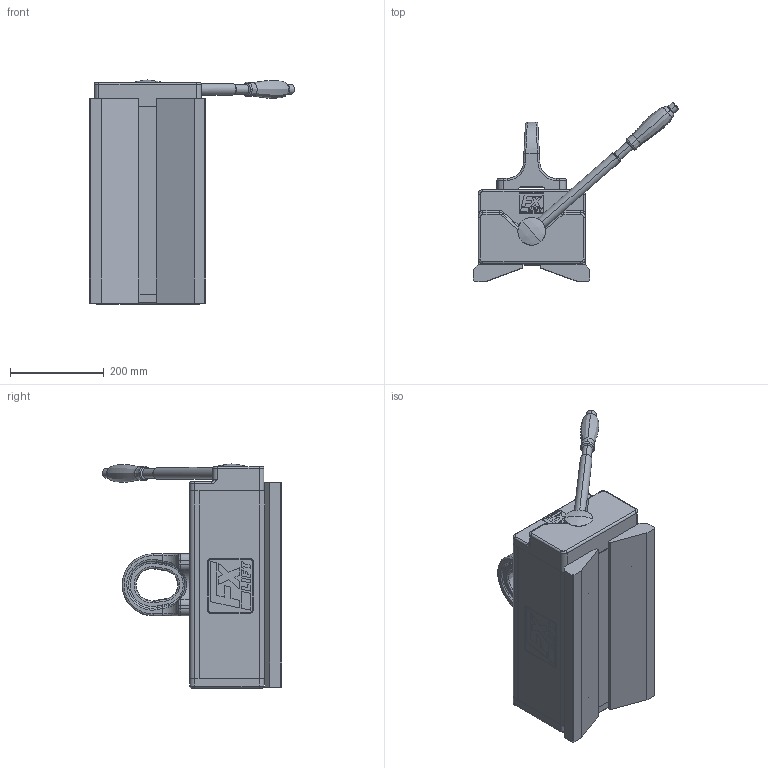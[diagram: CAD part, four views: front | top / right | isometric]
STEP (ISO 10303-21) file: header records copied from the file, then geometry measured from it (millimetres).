
FILE_DESCRIPTION (( 'STEP AP203' ), '1' );
FILE_NAME ('FX R 1200 Vertrieb.STEP', '2016-09-22T06:46:18', ( '' ), ( '' ), 'SwSTEP 2.0', 'SolidWorks 2013', '' );
FILE_SCHEMA (( 'CONFIG_CONTROL_DESIGN' ));
Length unit declared in the file: millimetre
Products named in the file (1): FX R 1200 Vertrieb
Bounding box: 436.95 x 382.46 x 477.46 mm (x, y, z)
Surface area: 638342.3 mm2 (no closed solid volume)
Topology: 0 solids, 9 shells, 861 faces, 2164 edges, 1362 vertices
Faces by surface type: plane 470, cylinder 155, bspline 143, cone 65, torus 24, sphere 4
Entity records: 39315 total; most frequent: CARTESIAN_POINT 19679, ORIENTED_EDGE 4256, DIRECTION 3643, EDGE_CURVE 2144, LINE 1365, VECTOR 1365, VERTEX_POINT 1362, AXIS2_PLACEMENT_3D 1139
